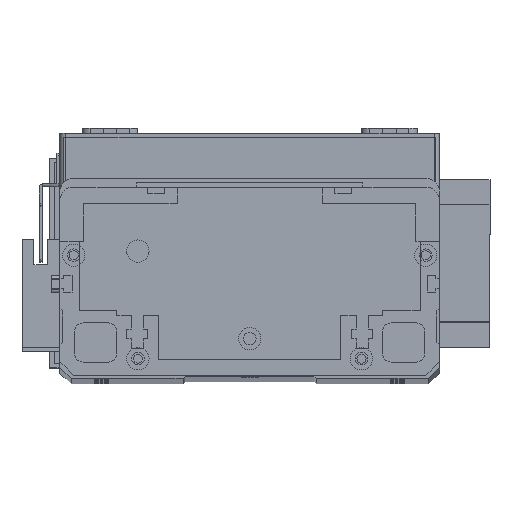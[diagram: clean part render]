
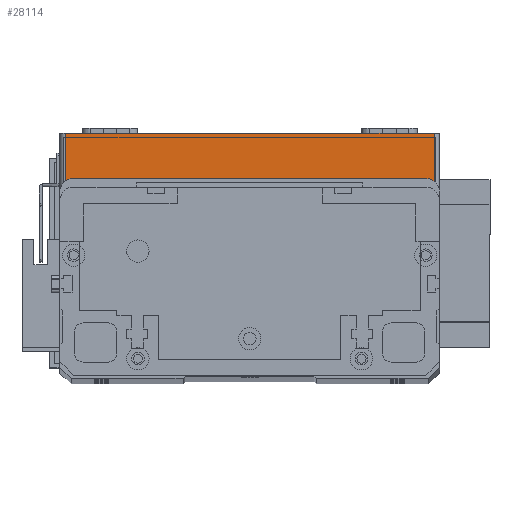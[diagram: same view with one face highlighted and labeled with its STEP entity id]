
A CAD part, top view. The second image highlights one B-rep face of the part: STEP entity #28114.
In plain terms, the highlighted planar face has unit normal (0, 0, 1) as drawn and (0, -1, 0) by its records, which use the part's own axes.
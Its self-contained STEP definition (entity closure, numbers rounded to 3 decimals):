
#523 = LINE ( 'NONE', #25194, #2648 ) ;
#713 = FACE_OUTER_BOUND ( 'NONE', #7462, .T. ) ;
#859 = DIRECTION ( 'NONE',  ( 0., 1., 0. ) ) ;
#1040 = LINE ( 'NONE', #25700, #18311 ) ;
#1159 = ORIENTED_EDGE ( 'NONE', *, *, #14805, .T. ) ;
#2648 = VECTOR ( 'NONE', #18367, 1000. ) ;
#4181 = DIRECTION ( 'NONE',  ( 1., 0., 0. ) ) ;
#6214 = VERTEX_POINT ( 'NONE', #8568 ) ;
#7462 = EDGE_LOOP ( 'NONE', ( #16302, #1159, #15607, #10291 ) ) ;
#8568 = CARTESIAN_POINT ( 'NONE',  ( 2., 0., 0. ) ) ;
#9899 = EDGE_CURVE ( 'NONE', #6214, #20425, #523, .T. ) ;
#10291 = ORIENTED_EDGE ( 'NONE', *, *, #14103, .T. ) ;
#10354 = VERTEX_POINT ( 'NONE', #19948 ) ;
#11960 = PLANE ( 'NONE',  #27781 ) ;
#12100 = CARTESIAN_POINT ( 'NONE',  ( 2., 0., 19.5 ) ) ;
#14103 = EDGE_CURVE ( 'NONE', #20425, #14198, #1040, .T. ) ;
#14198 = VERTEX_POINT ( 'NONE', #26084 ) ;
#14353 = CARTESIAN_POINT ( 'NONE',  ( 0., 0., 19.5 ) ) ;
#14727 = VECTOR ( 'NONE', #4181, 1000. ) ;
#14805 = EDGE_CURVE ( 'NONE', #10354, #6214, #17222, .T. ) ;
#15150 = EDGE_CURVE ( 'NONE', #10354, #14198, #15435, .T. ) ;
#15435 = LINE ( 'NONE', #24531, #14727 ) ;
#15607 = ORIENTED_EDGE ( 'NONE', *, *, #9899, .T. ) ;
#16302 = ORIENTED_EDGE ( 'NONE', *, *, #15150, .F. ) ;
#16623 = DIRECTION ( 'NONE',  ( 0., 0., 1. ) ) ;
#17222 = LINE ( 'NONE', #12100, #28508 ) ;
#18311 = VECTOR ( 'NONE', #27954, 1000. ) ;
#18367 = DIRECTION ( 'NONE',  ( 1., 0., 0. ) ) ;
#19948 = CARTESIAN_POINT ( 'NONE',  ( 2., 0., 19.5 ) ) ;
#20425 = VERTEX_POINT ( 'NONE', #27308 ) ;
#24531 = CARTESIAN_POINT ( 'NONE',  ( 0., 0., 19.5 ) ) ;
#25194 = CARTESIAN_POINT ( 'NONE',  ( 0., 0., 0. ) ) ;
#25647 = DIRECTION ( 'NONE',  ( 0., 0., -1. ) ) ;
#25700 = CARTESIAN_POINT ( 'NONE',  ( 134., 0., 19.5 ) ) ;
#26084 = CARTESIAN_POINT ( 'NONE',  ( 134., 0., 19.5 ) ) ;
#27308 = CARTESIAN_POINT ( 'NONE',  ( 134., 0., 0. ) ) ;
#27781 = AXIS2_PLACEMENT_3D ( 'NONE', #14353, #859, #16623 ) ;
#27954 = DIRECTION ( 'NONE',  ( 0., 0., 1. ) ) ;
#28114 = ADVANCED_FACE ( 'NONE', ( #713 ), #11960, .F. ) ;
#28508 = VECTOR ( 'NONE', #25647, 1000. ) ;
